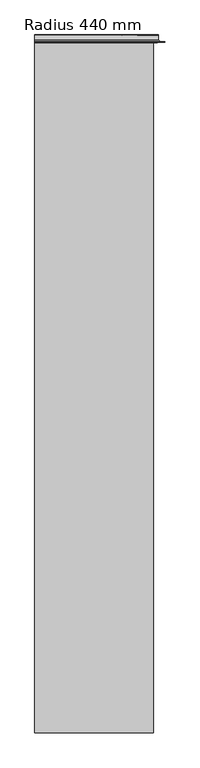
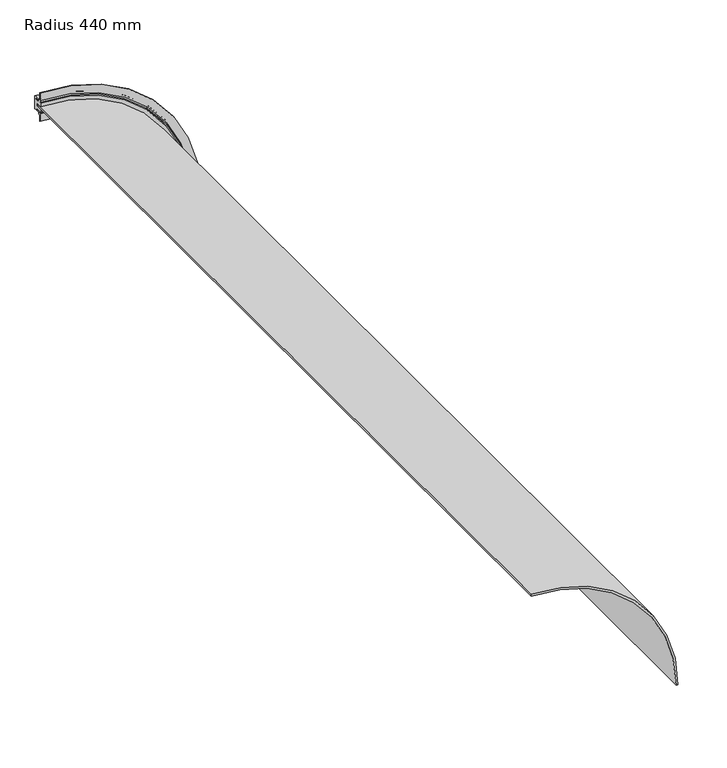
"""IFC4 building model written with IfcOpenShell, lengths in millimetres: proxy geometry, Specialy Equipment_Blindspace_TrackTrim-Click-to-Recess-Curtain-Tracks-90-Degree-Bend : Radius 440 mm."""

from ifc_helpers import new_model, si_unit, point, frame, frame_2d, origin, place, context, project, spatial, polyline, circle_curve, ellipse_curve, trimmed, segment, composite_curve, outline, extrude, source, transform, mapped, element, save
from ifc_brep_helpers import plane_surface, cylinder_surface, revolved_surface, advanced_brep


def radius_440_mm_d872920d(model_context):
    return source(origin(), model_context, "Body", "SolidModel", [
        extrude(outline(composite_curve([segment(polyline([(-485.0, 194.5), (-485.0, 200.5)]), True, "CONTINUOUS"), segment(trimmed(circle_curve(frame_2d((-485.0, -242.5)), 443.0), [point((-485.0, 200.5))], [point((-42.0, -242.5))], False, "CARTESIAN"), True, "CONTINUOUS"), segment(polyline([(-42.0, -242.5), (-48.0, -242.5)]), True, "CONTINUOUS"), segment(trimmed(circle_curve(frame_2d((-485.0, -242.5)), 437.0), [point((-48.0, -242.5))], [point((-485.0, 194.5))], True, "CARTESIAN"), True, "CONTINUOUS")], self_intersect=False)), frame((0.0, -1300.0, 0.0), z_axis=(0.0, 1.0, 0.0), x_axis=(0.0, 0.0, 1.0)), (0.0, 0.0, 1.0), 2586.4878459),
        advanced_brep(
        [(-242.5, 1270.0, -58.8933333), (-242.5, 1270.0, -48.0), (-242.5, 1286.4878459, -48.0), (-242.5, 1286.4878459, -42.0), (-242.5, 1270.0, -42.0), (-242.5, 1270.0, -31.1066667), (-242.5, 1295.5252948, -31.1066667), (-242.5, 1295.5252948, -29.1221391), (-242.5, 1273.6097179, -27.3062361), (-242.5, 1270.0, -27.3062361), (-242.5, 1272.4387528, -24.3752503), (-242.5, 1272.4387528, 0.0), (-242.5, 1274.5, 0.0), (-242.5, 1274.5, -20.0957837), (-242.5, 1279.5663509, -24.5), (-242.5, 1299.4988864, -24.5), (-242.5, 1300.0, -25.0011136), (-242.5, 1300.0, -64.9988864), (-242.5, 1299.4988864, -65.5), (-242.5, 1279.5663509, -65.5), (-242.5, 1274.5, -69.9042163), (-242.5, 1274.5, -90.0), (-242.5, 1272.4387528, -90.0), (-242.5, 1272.4387528, -65.6247497), (-242.5, 1270.0, -62.6937639), (-242.5, 1273.6097179, -62.6937639), (-242.5, 1295.5252948, -60.8778609), (-242.5, 1295.5252948, -58.8933333), (183.6066667, 1270.0, -485.0), (183.6066667, 1295.5252948, -485.0), (181.6221391, 1295.5252948, -485.0), (179.8062361, 1273.6097179, -485.0), (179.8062361, 1270.0, -485.0), (176.8752503, 1272.4387528, -485.0), (152.5, 1272.4387528, -485.0), (152.5, 1274.5, -485.0), (172.5957837, 1274.5, -485.0), (177.0, 1279.5663509, -485.0), (177.0, 1299.4988864, -485.0), (177.5011136, 1300.0, -485.0), (217.4988864, 1300.0, -485.0), (218.0, 1299.4988864, -485.0), (218.0, 1279.5663509, -485.0), (222.4042163, 1274.5, -485.0), (242.5, 1274.5, -485.0), (242.5, 1272.4387528, -485.0), (218.1247497, 1272.4387528, -485.0), (215.1937639, 1270.0, -485.0), (215.1937639, 1273.6097179, -485.0), (213.3778609, 1295.5252948, -485.0), (211.3933333, 1295.5252948, -485.0), (211.3933333, 1270.0, -485.0), (200.5, 1270.0, -485.0), (200.5, 1286.4878459, -485.0), (194.5, 1286.4878459, -485.0), (194.5, 1270.0, -485.0)],
        [
            (0, 1),
            (1, 2),
            (2, 3),
            (3, 4),
            (4, 5),
            (5, 6),
            (6, 7),
            (7, 8),
            (8, 9),
            (9, 10),
            (10, 11),
            (11, 12),
            (12, 13),
            (13, 14, circle_curve(frame((-242.5, 1275.9465479, -23.5478842), z_axis=(-1.0, 0.0, 0.0), x_axis=(0.0, 0.0, -1.0)), 3.7429265)),
            (14, 15),
            (15, 16, circle_curve(frame((-242.5, 1299.4988864, -25.0011136), z_axis=(-1.0, 0.0, 0.0), x_axis=(0.0, 0.0, -1.0)), 0.5011136)),
            (16, 17),
            (17, 18, circle_curve(frame((-242.5, 1299.4988864, -64.9988864), z_axis=(-1.0, 0.0, 0.0), x_axis=(0.0, 0.0, -1.0)), 0.5011136)),
            (18, 19),
            (19, 20, circle_curve(frame((-242.5, 1275.9465479, -66.4521158), z_axis=(-1.0, 0.0, 0.0), x_axis=(0.0, 0.0, -1.0)), 3.7429265)),
            (20, 21),
            (21, 22),
            (22, 23),
            (23, 24),
            (24, 25),
            (25, 26),
            (26, 27),
            (27, 0),
            (28, 29),
            (29, 30),
            (30, 31),
            (31, 32),
            (32, 33),
            (33, 34),
            (34, 35),
            (35, 36),
            (36, 37, circle_curve(frame((176.0478842, 1275.9465479, -485.0), z_axis=(0.0, 0.0, -1.0), x_axis=(-1.0, 0.0, 0.0)), 3.7429265)),
            (37, 38),
            (38, 39, circle_curve(frame((177.5011136, 1299.4988864, -485.0), z_axis=(0.0, 0.0, -1.0), x_axis=(-1.0, 0.0, 0.0)), 0.5011136)),
            (39, 40),
            (40, 41, circle_curve(frame((217.4988864, 1299.4988864, -485.0), z_axis=(0.0, 0.0, -1.0), x_axis=(-1.0, 0.0, 0.0)), 0.5011136)),
            (41, 42),
            (42, 43, circle_curve(frame((218.9521158, 1275.9465479, -485.0), z_axis=(0.0, 0.0, -1.0), x_axis=(-1.0, 0.0, 0.0)), 3.7429265)),
            (43, 44),
            (44, 45),
            (45, 46),
            (46, 47),
            (47, 48),
            (48, 49),
            (49, 50),
            (50, 51),
            (51, 52),
            (52, 53),
            (53, 54),
            (54, 55),
            (55, 28),
            (55, 1, circle_curve(frame((-242.5, 1270.0, -485.0), z_axis=(0.0, -1.0, 0.0), x_axis=(0.0, 0.0, 1.0)), 437.0)),
            (0, 28, circle_curve(frame((-242.5, 1270.0, -485.0), z_axis=(0.0, 1.0, 0.0), x_axis=(0.0, 0.0, 1.0)), 426.1066667)),
            (54, 2, circle_curve(frame((-242.5, 1286.4878459, -485.0), z_axis=(0.0, -1.0, 0.0), x_axis=(0.0, 0.0, 1.0)), 437.0)),
            (53, 3, circle_curve(frame((-242.5, 1286.4878459, -485.0), z_axis=(0.0, -1.0, 0.0), x_axis=(0.0, 0.0, 1.0)), 443.0)),
            (52, 4, circle_curve(frame((-242.5, 1270.0, -485.0), z_axis=(0.0, -1.0, 0.0), x_axis=(0.0, 0.0, 1.0)), 443.0)),
            (51, 5, circle_curve(frame((-242.5, 1270.0, -485.0), z_axis=(0.0, -1.0, 0.0), x_axis=(0.0, 0.0, 1.0)), 453.8933333)),
            (50, 6, circle_curve(frame((-242.5, 1295.5252948, -485.0), z_axis=(0.0, -1.0, 0.0), x_axis=(0.0, 0.0, 1.0)), 453.8933333)),
            (49, 7, circle_curve(frame((-242.5, 1295.5252948, -485.0), z_axis=(0.0, -1.0, 0.0), x_axis=(0.0, 0.0, 1.0)), 455.8778609)),
            (48, 8, circle_curve(frame((-242.5, 1273.6097179, -485.0), z_axis=(0.0, -1.0, 0.0), x_axis=(0.0, 0.0, 1.0)), 457.6937639)),
            (47, 9, circle_curve(frame((-242.5, 1270.0, -485.0), z_axis=(0.0, -1.0, 0.0), x_axis=(0.0, 0.0, 1.0)), 457.6937639)),
            (46, 10, circle_curve(frame((-242.5, 1272.4387528, -485.0), z_axis=(0.0, -1.0, 0.0), x_axis=(0.0, 0.0, 1.0)), 460.6247497)),
            (45, 11, circle_curve(frame((-242.5, 1272.4387528, -485.0), z_axis=(0.0, -1.0, 0.0), x_axis=(0.0, 0.0, 1.0)), 485.0)),
            (44, 12, circle_curve(frame((-242.5, 1274.5, -485.0), z_axis=(0.0, -1.0, 0.0), x_axis=(0.0, 0.0, 1.0)), 485.0)),
            (43, 13, circle_curve(frame((-242.5, 1274.5, -485.0), z_axis=(0.0, -1.0, 0.0), x_axis=(0.0, 0.0, 1.0)), 464.9042163)),
            (42, 14, circle_curve(frame((-242.5, 1279.5663509, -485.0), z_axis=(0.0, -1.0, 0.0), x_axis=(0.0, 0.0, 1.0)), 460.5)),
            (41, 15, circle_curve(frame((-242.5, 1299.4988864, -485.0), z_axis=(0.0, -1.0, 0.0), x_axis=(0.0, 0.0, 1.0)), 460.5)),
            (40, 16, circle_curve(frame((-242.5, 1300.0, -485.0), z_axis=(0.0, -1.0, 0.0), x_axis=(0.0, 0.0, 1.0)), 459.9988864)),
            (39, 17, circle_curve(frame((-242.5, 1300.0, -485.0), z_axis=(0.0, -1.0, 0.0), x_axis=(0.0, 0.0, 1.0)), 420.0011136)),
            (38, 18, circle_curve(frame((-242.5, 1299.4988864, -485.0), z_axis=(0.0, -1.0, 0.0), x_axis=(0.0, 0.0, 1.0)), 419.5)),
            (37, 19, circle_curve(frame((-242.5, 1279.5663509, -485.0), z_axis=(0.0, -1.0, 0.0), x_axis=(0.0, 0.0, 1.0)), 419.5)),
            (36, 20, circle_curve(frame((-242.5, 1274.5, -485.0), z_axis=(0.0, -1.0, 0.0), x_axis=(0.0, 0.0, 1.0)), 415.0957837)),
            (35, 21, circle_curve(frame((-242.5, 1274.5, -485.0), z_axis=(0.0, -1.0, 0.0), x_axis=(0.0, 0.0, 1.0)), 395.0)),
            (34, 22, circle_curve(frame((-242.5, 1272.4387528, -485.0), z_axis=(0.0, -1.0, 0.0), x_axis=(0.0, 0.0, 1.0)), 395.0)),
            (33, 23, circle_curve(frame((-242.5, 1272.4387528, -485.0), z_axis=(0.0, -1.0, 0.0), x_axis=(0.0, 0.0, 1.0)), 419.3752503)),
            (32, 24, circle_curve(frame((-242.5, 1270.0, -485.0), z_axis=(0.0, -1.0, 0.0), x_axis=(0.0, 0.0, 1.0)), 422.3062361)),
            (31, 25, circle_curve(frame((-242.5, 1273.6097179, -485.0), z_axis=(0.0, -1.0, 0.0), x_axis=(0.0, 0.0, 1.0)), 422.3062361)),
            (30, 26, circle_curve(frame((-242.5, 1295.5252948, -485.0), z_axis=(0.0, -1.0, 0.0), x_axis=(0.0, 0.0, 1.0)), 424.1221391)),
            (29, 27, circle_curve(frame((-242.5, 1295.5252948, -485.0), z_axis=(0.0, -1.0, 0.0), x_axis=(0.0, 0.0, 1.0)), 426.1066667)),
        ],
        [
            plane_surface(frame((-242.5, 1300.0, -45.0), z_axis=(-1.0, 0.0, 0.0), x_axis=(0.0, 1.0, 0.0))),
            plane_surface(frame((197.5, 1300.0, -485.0), z_axis=(0.0, 0.0, -1.0), x_axis=(0.0, 1.0, 0.0))),
            plane_surface(frame((-242.5, 1270.0, -485.0), z_axis=(0.0, -1.0, 0.0), x_axis=(0.0, 0.0, 1.0))),
            cylinder_surface(frame((-242.5, 1300.0, -485.0), z_axis=(0.0, 1.0, 0.0), x_axis=(0.0, 0.0, 1.0)), 437.0),
            plane_surface(frame((-242.5, 1286.4878459, -485.0), z_axis=(0.0, -1.0, 0.0), x_axis=(0.0, 0.0, 1.0))),
            revolved_surface(polyline([(-242.5, 1286.4878459, -42.0), (-242.5, 1270.0, -42.0)]), (-242.5, 1300.0, -485.0), (0.0, 1.0, 0.0)),
            cylinder_surface(frame((-242.5, 1300.0, -485.0), z_axis=(0.0, 1.0, 0.0), x_axis=(0.0, 0.0, 1.0)), 453.8933333),
            plane_surface(frame((-242.5, 1295.5252948, -485.0), z_axis=(0.0, -1.0, 0.0), x_axis=(0.0, 0.0, 1.0))),
            revolved_surface(polyline([(-242.5, 1295.5252948, -29.1221391), (-242.5, 1273.6097179, -27.3062361)]), (-242.5, 1300.0, -485.0), (0.0, 1.0, 0.0)),
            revolved_surface(polyline([(-242.5, 1273.6097179, -27.30623609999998), (-242.5, 1270.0, -27.30623609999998)]), (-242.5, 1300.0, -485.0), (0.0, 1.0, 0.0)),
            revolved_surface(polyline([(-242.5, 1270.0, -27.3062361), (-242.5, 1272.4387528, -24.3752503)]), (-242.5, 1300.0, -485.0), (0.0, 1.0, 0.0)),
            plane_surface(frame((-242.5, 1272.4387528, -485.0), z_axis=(0.0, -1.0, 0.0), x_axis=(0.0, 0.0, 1.0))),
            cylinder_surface(frame((-242.5, 1300.0, -485.0), z_axis=(0.0, 1.0, 0.0), x_axis=(0.0, 0.0, 1.0)), 485.0),
            plane_surface(frame((-242.5, 1274.5, -485.0), z_axis=(0.0, 1.0, 0.0), x_axis=(0.0, 0.0, 1.0))),
            revolved_surface(trimmed(ellipse_curve(frame((-242.5, 1275.9465479, -23.5478842), z_axis=(-1.0, 0.0, 0.0), x_axis=(0.0, 0.0, -1.0)), 3.7429265, 3.7429265), [point((-242.5, 1274.5, -20.0957837))], [point((-242.5, 1279.5663509, -24.5))], True, "CARTESIAN"), (-242.5, 1300.0, -485.0), (0.0, 1.0, 0.0)),
            cylinder_surface(frame((-242.5, 1300.0, -485.0), z_axis=(0.0, 1.0, 0.0), x_axis=(0.0, 0.0, 1.0)), 460.5),
            revolved_surface(trimmed(ellipse_curve(frame((-242.5, 1299.4988864, -25.0011136), z_axis=(-1.0, 0.0, 0.0), x_axis=(0.0, 0.0, -1.0)), 0.5011136, 0.5011136), [point((-242.5, 1299.4988864, -24.5))], [point((-242.5, 1300.0, -25.0011136))], True, "CARTESIAN"), (-242.5, 1300.0, -485.0), (0.0, 1.0, 0.0)),
            plane_surface(frame((-242.5, 1300.0, -485.0), z_axis=(0.0, 1.0, 0.0), x_axis=(0.0, 0.0, 1.0))),
            revolved_surface(trimmed(ellipse_curve(frame((-242.5, 1299.4988864, -64.9988864), z_axis=(-1.0, 0.0, 0.0), x_axis=(0.0, 0.0, -1.0)), 0.5011136, 0.5011136), [point((-242.5, 1300.0, -64.9988864))], [point((-242.5, 1299.4988864, -65.5))], True, "CARTESIAN"), (-242.5, 1300.0, -485.0), (0.0, 1.0, 0.0)),
            revolved_surface(polyline([(-242.5, 1299.4988864, -65.5), (-242.5, 1279.5663509, -65.5)]), (-242.5, 1300.0, -485.0), (0.0, 1.0, 0.0)),
            revolved_surface(trimmed(ellipse_curve(frame((-242.5, 1275.9465479, -66.4521158), z_axis=(-1.0, 0.0, 0.0), x_axis=(0.0, 0.0, -1.0)), 3.7429265, 3.7429265), [point((-242.5, 1279.5663509, -65.5))], [point((-242.5, 1274.5, -69.9042163))], True, "CARTESIAN"), (-242.5, 1300.0, -485.0), (0.0, 1.0, 0.0)),
            revolved_surface(polyline([(-242.5, 1274.5, -90.0), (-242.5, 1272.4387528, -90.0)]), (-242.5, 1300.0, -485.0), (0.0, 1.0, 0.0)),
            revolved_surface(polyline([(-242.5, 1272.4387528, -65.6247497), (-242.5, 1270.0, -62.6937639)]), (-242.5, 1300.0, -485.0), (0.0, 1.0, 0.0)),
            cylinder_surface(frame((-242.5, 1300.0, -485.0), z_axis=(0.0, 1.0, 0.0), x_axis=(0.0, 0.0, 1.0)), 422.3062361),
            revolved_surface(polyline([(-242.5, 1273.6097179, -62.6937639), (-242.5, 1295.5252948, -60.8778609)]), (-242.5, 1300.0, -485.0), (0.0, 1.0, 0.0)),
            revolved_surface(polyline([(-242.5, 1295.5252948, -58.893333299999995), (-242.5, 1270.0, -58.893333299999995)]), (-242.5, 1300.0, -485.0), (0.0, 1.0, 0.0)),
        ],
        [
            (0, [[1, 2, 3, 4, 5, 6, 7, 8, 9, 10, 11, 12, 13, 14, 15, 16, 17, 18, 19, 20, 21, 22, 23, 24, 25, 26, 27, 28]]),
            (1, [[29, 30, 31, 32, 33, 34, 35, 36, 37, 38, 39, 40, 41, 42, 43, 44, 45, 46, 47, 48, 49, 50, 51, 52, 53, 54, 55, 56]]),
            (2, [[57, -1, 58, -56]]),
            (3, [[59, -2, -57, -55]]),
            (4, [[60, -3, -59, -54]]),
            (5, [[61, -4, -60, -53]]),
            (2, [[62, -5, -61, -52]]),
            (6, [[63, -6, -62, -51]]),
            (7, [[64, -7, -63, -50]]),
            (8, [[65, -8, -64, -49]]),
            (9, [[66, -9, -65, -48]]),
            (10, [[67, -10, -66, -47]]),
            (11, [[68, -11, -67, -46]]),
            (12, [[69, -12, -68, -45]]),
            (13, [[70, -13, -69, -44]]),
            (14, [[71, -14, -70, -43]]),
            (15, [[72, -15, -71, -42]]),
            (16, [[73, -16, -72, -41]]),
            (17, [[74, -17, -73, -40]]),
            (18, [[75, -18, -74, -39]]),
            (19, [[76, -19, -75, -38]]),
            (20, [[77, -20, -76, -37]]),
            (13, [[78, -21, -77, -36]]),
            (21, [[79, -22, -78, -35]]),
            (11, [[80, -23, -79, -34]]),
            (22, [[81, -24, -80, -33]]),
            (23, [[82, -25, -81, -32]]),
            (24, [[83, -26, -82, -31]]),
            (7, [[84, -27, -83, -30]]),
            (25, [[-58, -28, -84, -29]]),
        ],
    ),
    ])


if __name__ == "__main__":
    model = new_model("IFC4")
    model_context = context("Model", 3, world=origin())
    ifc_project = project(units=[si_unit("LENGTHUNIT", "METRE", prefix="MILLI")], contexts=[model_context])
    site = spatial("IfcSite", under=ifc_project)
    building = spatial("IfcBuilding", under=site)
    placement = place(None, origin())
    radius_440_mm_shape = radius_440_mm_d872920d(model_context)
    element("IfcBuildingElementProxy", 1, Name="Specialy Equipment_Blindspace_TrackTrim-Click-to-Recess-Curtain-Tracks-90-Degree-Bend : Radius 440 mm", ObjectType="Specialy Equipment_Blindspace_TrackTrim-Click-to-Recess-Curtain-Tracks-90-Degree-Bend : Radius 440 mm", at=placement, inside=building, context=model_context, shape_type="MappedRepresentation", body=[
        mapped(radius_440_mm_shape, transform((0.0, 0.0, 0.0), x_axis=(1.0, 0.0, 0.0), y_axis=(0.0, 1.0, 0.0), z_axis=(0.0, 0.0, 1.0))),
    ])
    save(model, "model.ifc")
